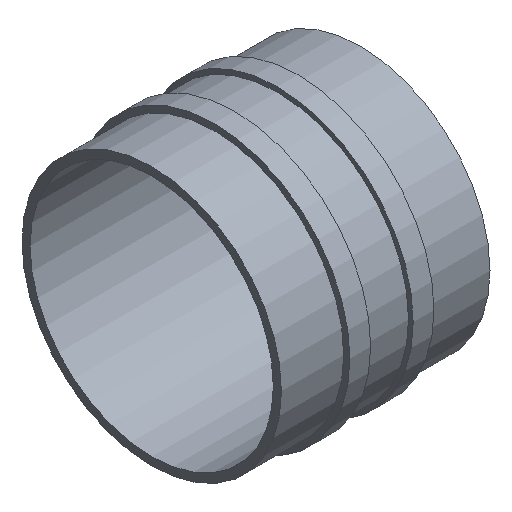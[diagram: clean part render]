
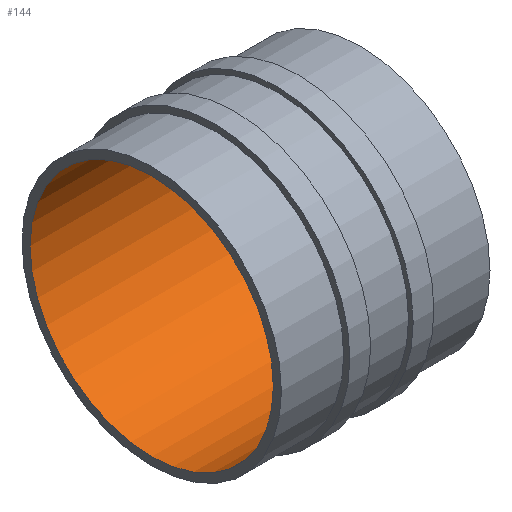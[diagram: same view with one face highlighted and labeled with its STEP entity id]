
A CAD part, isometric view. The second image highlights one B-rep face of the part: STEP entity #144.
In plain terms, the highlighted cylindrical face has radius 117.2 mm (diameter 234.4 mm), a full revolution.
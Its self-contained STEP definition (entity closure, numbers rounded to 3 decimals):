
#18=CYLINDRICAL_SURFACE($,#171,117.2);
#33=FACE_BOUND($,#66,.T.);
#42=FACE_OUTER_BOUND($,#65,.T.);
#65=EDGE_LOOP($,(#125));
#66=EDGE_LOOP($,(#126));
#68=CIRCLE($,#150,117.2);
#78=CIRCLE($,#170,117.2);
#80=VERTEX_POINT($,#226);
#90=VERTEX_POINT($,#256);
#92=EDGE_CURVE($,#80,#80,#68,.T.);
#102=EDGE_CURVE($,#90,#90,#78,.T.);
#125=ORIENTED_EDGE($,*,*,#92,.F.);
#126=ORIENTED_EDGE($,*,*,#102,.T.);
#144=ADVANCED_FACE($,(#42,#33),#18,.F.);
#150=AXIS2_PLACEMENT_3D($,#227,#178,#179);
#170=AXIS2_PLACEMENT_3D($,#257,#218,#219);
#171=AXIS2_PLACEMENT_3D($,#258,#220,#221);
#178=DIRECTION('center_axis',(1.,0.,0.));
#179=DIRECTION('ref_axis',(0.,1.,0.));
#218=DIRECTION('center_axis',(1.,0.,0.));
#219=DIRECTION('ref_axis',(0.,1.,0.));
#220=DIRECTION('center_axis',(1.,0.,0.));
#221=DIRECTION('ref_axis',(0.,1.,0.));
#226=CARTESIAN_POINT('',(0.,117.2,0.));
#227=CARTESIAN_POINT('Origin',(0.,0.,0.));
#256=CARTESIAN_POINT('',(201.,117.2,0.));
#257=CARTESIAN_POINT('Origin',(201.,0.,0.));
#258=CARTESIAN_POINT('Origin',(100.5,0.,0.));
